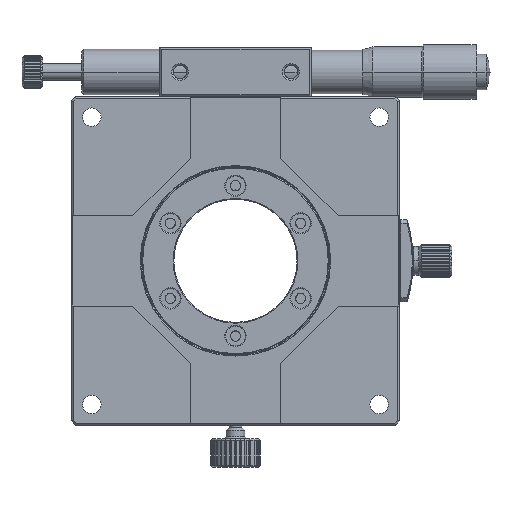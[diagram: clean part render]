
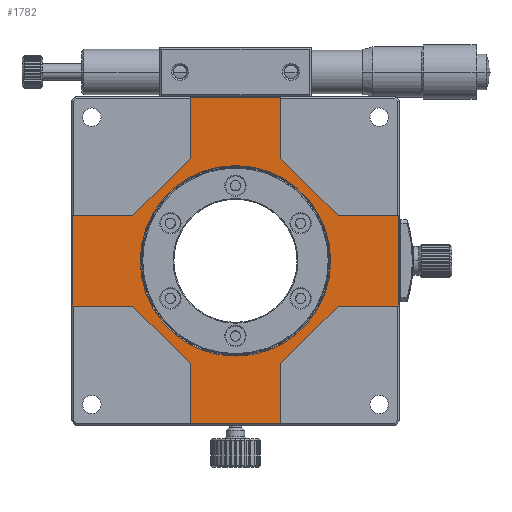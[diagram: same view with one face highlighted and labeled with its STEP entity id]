
A CAD part, front view. The second image highlights one B-rep face of the part: STEP entity #1782.
In plain terms, the highlighted planar face has unit normal (0, -1, 0).
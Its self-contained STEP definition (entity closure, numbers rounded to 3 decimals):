
#137=DIRECTION('',(0.,0.,1.));
#138=VECTOR('',#137,22.);
#139=CARTESIAN_POINT('',(39.7,-6.8,-11.));
#140=LINE('',#139,#138);
#153=DIRECTION('',(0.,0.,-1.));
#154=VECTOR('',#153,14.7);
#155=CARTESIAN_POINT('',(-11.,-6.8,-25.));
#156=LINE('',#155,#154);
#157=DIRECTION('',(0.707,0.,-0.707));
#158=VECTOR('',#157,19.799);
#159=CARTESIAN_POINT('',(-25.,-6.8,-11.));
#160=LINE('',#159,#158);
#161=DIRECTION('',(1.,0.,0.));
#162=VECTOR('',#161,14.7);
#163=CARTESIAN_POINT('',(-39.7,-6.8,-11.));
#164=LINE('',#163,#162);
#165=DIRECTION('',(-1.,0.,0.));
#166=VECTOR('',#165,14.7);
#167=CARTESIAN_POINT('',(-25.,-6.8,11.));
#168=LINE('',#167,#166);
#169=DIRECTION('',(-0.707,0.,-0.707));
#170=VECTOR('',#169,19.799);
#171=CARTESIAN_POINT('',(-11.,-6.8,25.));
#172=LINE('',#171,#170);
#173=DIRECTION('',(0.,0.,-1.));
#174=VECTOR('',#173,14.7);
#175=CARTESIAN_POINT('',(-11.,-6.8,39.7));
#176=LINE('',#175,#174);
#177=DIRECTION('',(0.,0.,1.));
#178=VECTOR('',#177,14.7);
#179=CARTESIAN_POINT('',(11.,-6.8,25.));
#180=LINE('',#179,#178);
#181=DIRECTION('',(-0.707,0.,0.707));
#182=VECTOR('',#181,19.799);
#183=CARTESIAN_POINT('',(25.,-6.8,11.));
#184=LINE('',#183,#182);
#185=DIRECTION('',(-1.,0.,0.));
#186=VECTOR('',#185,14.7);
#187=CARTESIAN_POINT('',(39.7,-6.8,11.));
#188=LINE('',#187,#186);
#189=DIRECTION('',(1.,0.,0.));
#190=VECTOR('',#189,14.7);
#191=CARTESIAN_POINT('',(25.,-6.8,-11.));
#192=LINE('',#191,#190);
#193=DIRECTION('',(0.707,0.,0.707));
#194=VECTOR('',#193,19.799);
#195=CARTESIAN_POINT('',(11.,-6.8,-25.));
#196=LINE('',#195,#194);
#197=DIRECTION('',(0.,0.,1.));
#198=VECTOR('',#197,14.7);
#199=CARTESIAN_POINT('',(11.,-6.8,-39.7));
#200=LINE('',#199,#198);
#201=CARTESIAN_POINT('',(0.,-6.8,0.));
#202=DIRECTION('',(0.,-1.,0.));
#203=DIRECTION('',(0.,0.,-1.));
#204=AXIS2_PLACEMENT_3D('',#201,#202,#203);
#206=CARTESIAN_POINT('',(0.,-6.8,0.));
#207=DIRECTION('',(0.,-1.,0.));
#208=DIRECTION('',(0.,0.,1.));
#209=AXIS2_PLACEMENT_3D('',#206,#207,#208);
#211=DIRECTION('',(1.,0.,0.));
#212=VECTOR('',#211,22.);
#213=CARTESIAN_POINT('',(-11.,-6.8,-39.7));
#214=LINE('',#213,#212);
#343=DIRECTION('',(-1.,0.,0.));
#344=VECTOR('',#343,22.);
#345=CARTESIAN_POINT('',(11.,-6.8,39.7));
#346=LINE('',#345,#344);
#367=DIRECTION('',(0.,0.,-1.));
#368=VECTOR('',#367,22.);
#369=CARTESIAN_POINT('',(-39.7,-6.8,11.));
#370=LINE('',#369,#368);
#1343=CARTESIAN_POINT('',(-11.,-6.8,-39.7));
#1344=CARTESIAN_POINT('',(11.,-6.8,-39.7));
#1345=VERTEX_POINT('',#1343);
#1346=VERTEX_POINT('',#1344);
#1347=CARTESIAN_POINT('',(39.7,-6.8,-11.));
#1348=CARTESIAN_POINT('',(39.7,-6.8,11.));
#1349=VERTEX_POINT('',#1347);
#1350=VERTEX_POINT('',#1348);
#1351=CARTESIAN_POINT('',(11.,-6.8,39.7));
#1352=CARTESIAN_POINT('',(-11.,-6.8,39.7));
#1353=VERTEX_POINT('',#1351);
#1354=VERTEX_POINT('',#1352);
#1355=CARTESIAN_POINT('',(-39.7,-6.8,11.));
#1356=CARTESIAN_POINT('',(-39.7,-6.8,-11.));
#1357=VERTEX_POINT('',#1355);
#1358=VERTEX_POINT('',#1356);
#1359=CARTESIAN_POINT('',(25.,-6.8,11.));
#1360=VERTEX_POINT('',#1359);
#1361=CARTESIAN_POINT('',(11.,-6.8,25.));
#1362=VERTEX_POINT('',#1361);
#1363=CARTESIAN_POINT('',(-11.,-6.8,25.));
#1364=VERTEX_POINT('',#1363);
#1365=CARTESIAN_POINT('',(-25.,-6.8,11.));
#1366=VERTEX_POINT('',#1365);
#1367=CARTESIAN_POINT('',(-25.,-6.8,-11.));
#1368=VERTEX_POINT('',#1367);
#1369=CARTESIAN_POINT('',(-11.,-6.8,-25.));
#1370=VERTEX_POINT('',#1369);
#1371=CARTESIAN_POINT('',(11.,-6.8,-25.));
#1372=VERTEX_POINT('',#1371);
#1373=CARTESIAN_POINT('',(25.,-6.8,-11.));
#1374=VERTEX_POINT('',#1373);
#1459=CARTESIAN_POINT('',(0.,-6.8,-23.2));
#1460=CARTESIAN_POINT('',(0.,-6.8,23.2));
#1461=VERTEX_POINT('',#1459);
#1462=VERTEX_POINT('',#1460);
#1739=CARTESIAN_POINT('',(0.,-6.8,0.));
#1740=DIRECTION('',(0.,-1.,0.));
#1741=DIRECTION('',(-1.,0.,0.));
#1742=AXIS2_PLACEMENT_3D('',#1739,#1740,#1741);
#1743=PLANE('',#1742);
#1745=ORIENTED_EDGE('',*,*,#1744,.F.);
#1747=ORIENTED_EDGE('',*,*,#1746,.F.);
#1749=ORIENTED_EDGE('',*,*,#1748,.F.);
#1751=ORIENTED_EDGE('',*,*,#1750,.F.);
#1753=ORIENTED_EDGE('',*,*,#1752,.F.);
#1755=ORIENTED_EDGE('',*,*,#1754,.F.);
#1757=ORIENTED_EDGE('',*,*,#1756,.F.);
#1759=ORIENTED_EDGE('',*,*,#1758,.F.);
#1761=ORIENTED_EDGE('',*,*,#1760,.F.);
#1763=ORIENTED_EDGE('',*,*,#1762,.F.);
#1765=ORIENTED_EDGE('',*,*,#1764,.F.);
#1766=ORIENTED_EDGE('',*,*,#1711,.F.);
#1767=ORIENTED_EDGE('',*,*,#1723,.F.);
#1769=ORIENTED_EDGE('',*,*,#1768,.F.);
#1771=ORIENTED_EDGE('',*,*,#1770,.F.);
#1773=ORIENTED_EDGE('',*,*,#1772,.F.);
#1774=EDGE_LOOP('',(#1745,#1747,#1749,#1751,#1753,#1755,#1757,#1759,#1761,#1763,
#1765,#1766,#1767,#1769,#1771,#1773));
#1775=FACE_OUTER_BOUND('',#1774,.F.);
#1777=ORIENTED_EDGE('',*,*,#1776,.T.);
#1779=ORIENTED_EDGE('',*,*,#1778,.T.);
#1780=EDGE_LOOP('',(#1777,#1779));
#1781=FACE_BOUND('',#1780,.F.);
#1782=ADVANCED_FACE('',(#1775,#1781),#1743,.T.);
#205=CIRCLE('',#204,23.2);
#210=CIRCLE('',#209,23.2);
#1711=EDGE_CURVE('',#1350,#1360,#188,.T.);
#1723=EDGE_CURVE('',#1349,#1350,#140,.T.);
#1744=EDGE_CURVE('',#1345,#1346,#214,.T.);
#1746=EDGE_CURVE('',#1370,#1345,#156,.T.);
#1748=EDGE_CURVE('',#1368,#1370,#160,.T.);
#1750=EDGE_CURVE('',#1358,#1368,#164,.T.);
#1752=EDGE_CURVE('',#1357,#1358,#370,.T.);
#1754=EDGE_CURVE('',#1366,#1357,#168,.T.);
#1756=EDGE_CURVE('',#1364,#1366,#172,.T.);
#1758=EDGE_CURVE('',#1354,#1364,#176,.T.);
#1760=EDGE_CURVE('',#1353,#1354,#346,.T.);
#1762=EDGE_CURVE('',#1362,#1353,#180,.T.);
#1764=EDGE_CURVE('',#1360,#1362,#184,.T.);
#1768=EDGE_CURVE('',#1374,#1349,#192,.T.);
#1770=EDGE_CURVE('',#1372,#1374,#196,.T.);
#1772=EDGE_CURVE('',#1346,#1372,#200,.T.);
#1776=EDGE_CURVE('',#1461,#1462,#205,.T.);
#1778=EDGE_CURVE('',#1462,#1461,#210,.T.);
